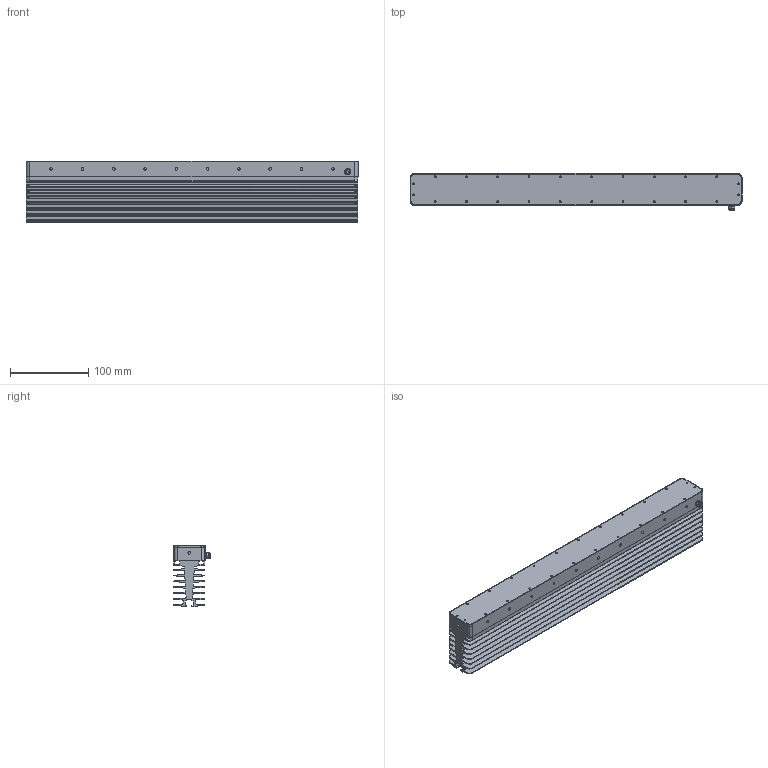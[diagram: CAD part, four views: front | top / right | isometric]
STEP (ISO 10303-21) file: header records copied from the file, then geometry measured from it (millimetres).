
FILE_DESCRIPTION(('STEP AP214'),'1');
FILE_NAME('Power-Line-400 Kundenmodell mit KK.stp','2019-12-17T14:44:07',(' '),(' '),'Spatial InterOp 3D',' ',' ');
FILE_SCHEMA(('AUTOMOTIVE_DESIGN { 1 0 10303 214 1 1 1 1 }'));
Length unit declared in the file: millimetre
Products named in the file (1): Volumenkörper
Bounding box: 424.2 x 47.53 x 78.8 mm (x, y, z)
Volume: 697730.3 mm3; surface area: 333749.3 mm2
Topology: 1 solids, 13 shells, 664 faces, 1665 edges, 1098 vertices
Faces by surface type: cylinder 392, plane 238, cone 18, bspline 8, sphere 4, torus 4
Entity records: 26533 total; most frequent: CARTESIAN_POINT 4842, DIRECTION 3611, ORIENTED_EDGE 3294, EDGE_CURVE 1647, AXIS2_PLACEMENT_3D 1440, VERTEX_POINT 1098, EDGE_LOOP 769, LINE 731
